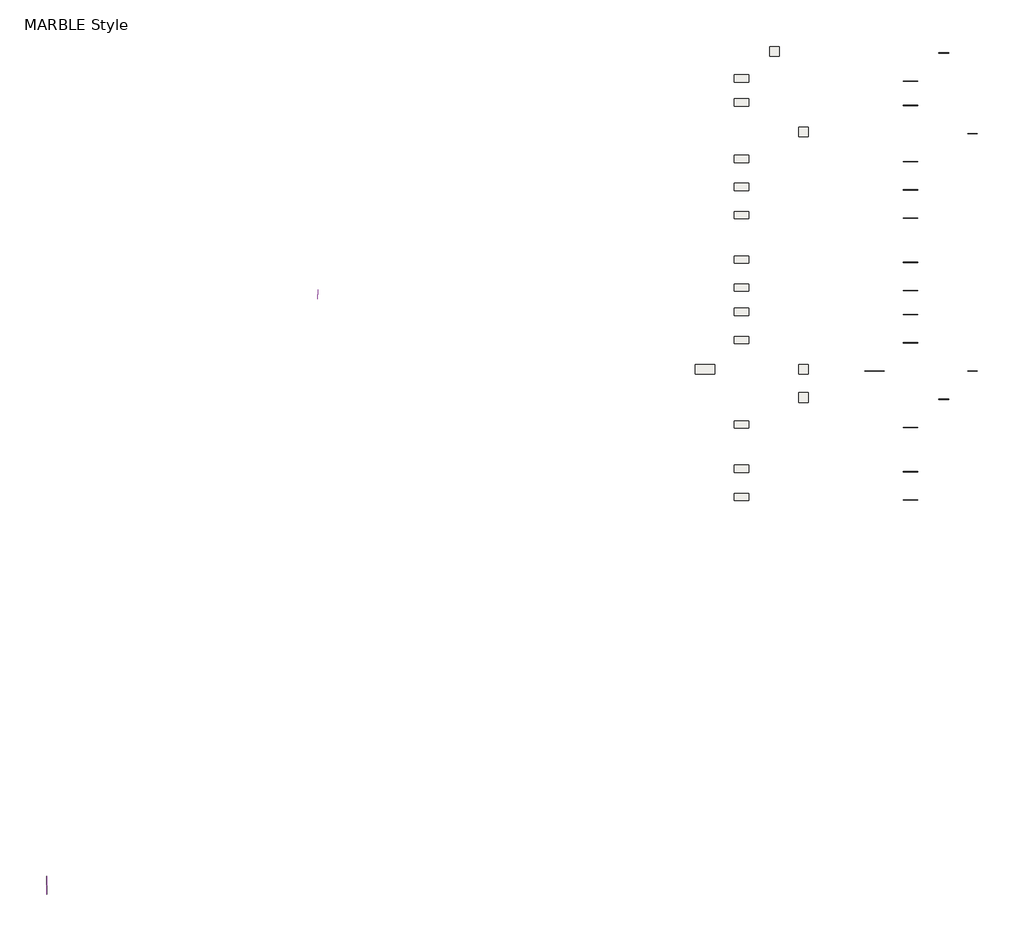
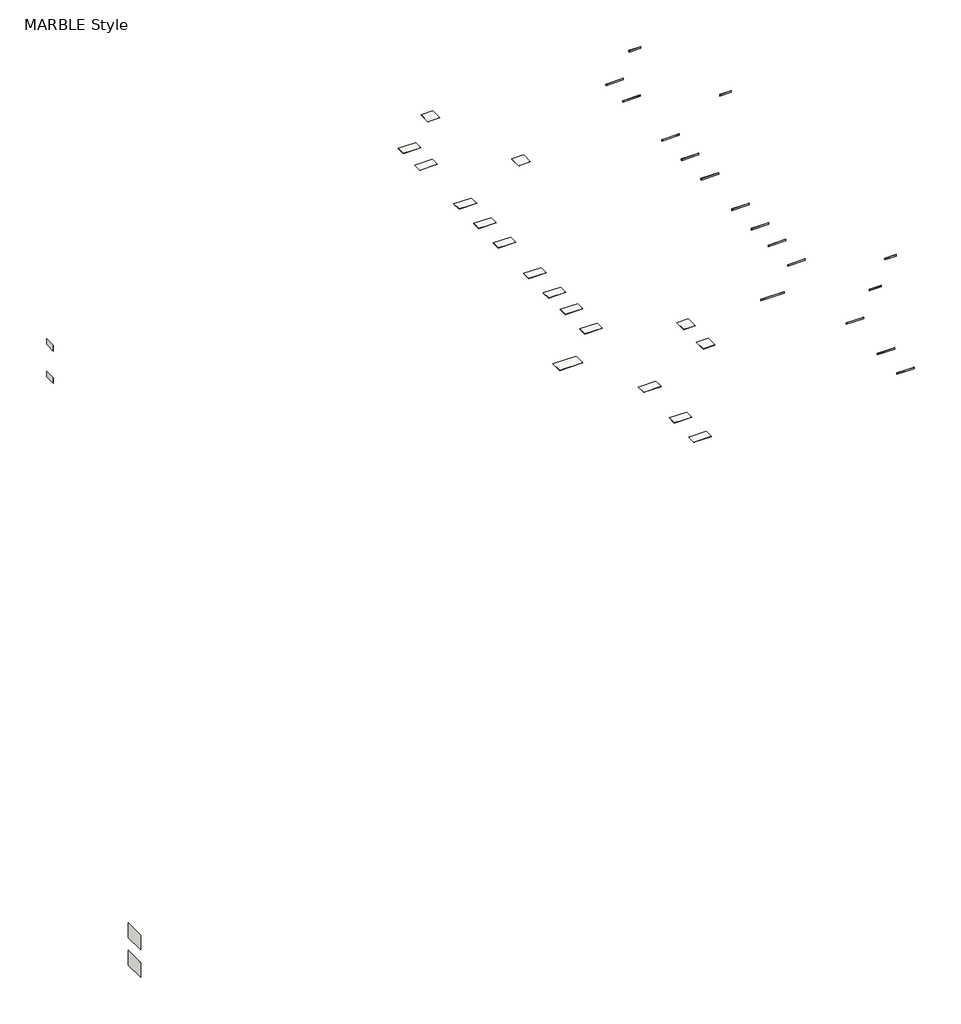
# One storey: 21 walls, 17 proxies, 17 slabs.
"""IFC4 building model written with IfcOpenShell, lengths in millimetres."""

from ifc_helpers import new_model, si_unit, frame, origin, place, context, project, spatial, polyline, outline, extrude, element, save

model = new_model("IFC4")

# Units and contexts
model_context = context("Model", 3, world=origin())
ifc_project = project(units=[si_unit("LENGTHUNIT", "METRE", prefix="MILLI")], contexts=[model_context])

# Site, building, storey
site = spatial("IfcSite", under=ifc_project)
building = spatial("IfcBuilding", under=site)
storey = spatial("IfcBuildingStorey", under=building, Name="MARBLE Style", Elevation=9000.0)

# Proxies
placement = place(None, origin())
element("IfcBuildingElementProxy", 1, Name="Cesantoni_Aranza_8x61_RO_Aranza_Brillante", ObjectType="Cesantoni_Aranza_8x61_RO_Aranza_Brillante", at=placement, inside=storey, context=model_context, shape_type="SweptSolid", body=[
    extrude(outline(polyline([(13869.8218898, 374.781227), (13869.8218898, 385.781227), (14479.8218898, 385.781227), (14479.8218898, 374.781227), (13869.8218898, 374.781227)])), frame((0.0, 0.0, 9000.0), z_axis=(0.0, 0.0, 1.0), x_axis=(1.0, 0.0, 0.0)), (0.0, 0.0, 1.0), 80.0),
])
element("IfcBuildingElementProxy", 2, Name="Cesantoni_Genova _8x90_RO_Perla_Mate", ObjectType="Cesantoni_Genova _8x90_RO_Perla_Mate", at=placement, inside=storey, context=model_context, shape_type="SweptSolid", body=[
    extrude(outline(polyline([(11669.8218898, -1375.218773), (11669.8218898, -1364.218773), (12569.8218898, -1364.218773), (12569.8218898, -1375.218773), (11669.8218898, -1375.218773)])), frame((0.0, 0.0, 9000.0), z_axis=(0.0, 0.0, 1.0), x_axis=(1.0, 0.0, 0.0)), (0.0, 0.0, 1.0), 80.0),
])
element("IfcBuildingElementProxy", 3, Name="Cesantoni_Genova _8x90_RO_Tabaco_Mate", ObjectType="Cesantoni_Genova _8x90_RO_Tabaco_Mate", at=placement, inside=storey, context=model_context, shape_type="SweptSolid", body=[
    extrude(outline(polyline([(11669.8218898, -2875.218773), (11669.8218898, -2864.218773), (12569.8218898, -2864.218773), (12569.8218898, -2875.218773), (11669.8218898, -2875.218773)])), frame((0.0, 0.0, 9000.0), z_axis=(0.0, 0.0, 1.0), x_axis=(1.0, 0.0, 0.0)), (0.0, 0.0, 1.0), 80.0),
])
element("IfcBuildingElementProxy", 4, Name="Cesantoni_Levicato_8x60_RO_Levicato_Mate", ObjectType="Cesantoni_Levicato_8x60_RO_Levicato_Mate", at=placement, inside=storey, context=model_context, shape_type="SweptSolid", body=[
    extrude(outline(polyline([(15669.8218898, -4625.218773), (15669.8218898, -4614.218773), (16269.8218898, -4614.218773), (16269.8218898, -4625.218773), (15669.8218898, -4625.218773)])), frame((0.0, 0.0, 9000.0), z_axis=(0.0, 0.0, 1.0), x_axis=(1.0, 0.0, 0.0)), (0.0, 0.0, 1.0), 80.0),
])
element("IfcBuildingElementProxy", 5, Name="Cesantoni_Milano_8x90_RO_Milano_Brillante", ObjectType="Cesantoni_Milano_8x90_RO_Milano_Brillante", at=placement, inside=storey, context=model_context, shape_type="SweptSolid", body=[
    extrude(outline(polyline([(11669.8218898, -6375.218773), (11669.8218898, -6364.218773), (12569.8218898, -6364.218773), (12569.8218898, -6375.218773), (11669.8218898, -6375.218773)])), frame((0.0, 0.0, 9000.0), z_axis=(0.0, 0.0, 1.0), x_axis=(1.0, 0.0, 0.0)), (0.0, 0.0, 1.0), 80.0),
])
element("IfcBuildingElementProxy", 6, Name="Cesantoni_Moncler_8x90_RO_Moncler_Brillante", ObjectType="Cesantoni_Moncler_8x90_RO_Moncler_Brillante", at=placement, inside=storey, context=model_context, shape_type="SweptSolid", body=[
    extrude(outline(polyline([(11669.8218898, -8125.218773), (11669.8218898, -8114.218773), (12569.8218898, -8114.218773), (12569.8218898, -8125.218773), (11669.8218898, -8125.218773)])), frame((0.0, 0.0, 9000.0), z_axis=(0.0, 0.0, 1.0), x_axis=(1.0, 0.0, 0.0)), (0.0, 0.0, 1.0), 80.0),
])
element("IfcBuildingElementProxy", 7, Name="Cesantoni_Monte_Carlo_8x90_RO_Monte_Carlo_Brillante", ObjectType="Cesantoni_Monte_Carlo_8x90_RO_Monte_Carlo_Brillante", at=placement, inside=storey, context=model_context, shape_type="SweptSolid", body=[
    extrude(outline(polyline([(11669.8218898, -9875.218773), (11669.8218898, -9864.218773), (12569.8218898, -9864.218773), (12569.8218898, -9875.218773), (11669.8218898, -9875.218773)])), frame((0.0, 0.0, 9000.0), z_axis=(0.0, 0.0, 1.0), x_axis=(1.0, 0.0, 0.0)), (0.0, 0.0, 1.0), 80.0),
])
element("IfcBuildingElementProxy", 8, Name="Cesantoni_Napa_8x90_RO_Napa_Mate", ObjectType="Cesantoni_Napa_8x90_RO_Napa_Mate", at=placement, inside=storey, context=model_context, shape_type="SweptSolid", body=[
    extrude(outline(polyline([(11669.8218898, -12625.218773), (11669.8218898, -12614.218773), (12569.8218898, -12614.218773), (12569.8218898, -12625.218773), (11669.8218898, -12625.218773)])), frame((0.0, 0.0, 9000.0), z_axis=(0.0, 0.0, 1.0), x_axis=(1.0, 0.0, 0.0)), (0.0, 0.0, 1.0), 80.0),
])
element("IfcBuildingElementProxy", 9, Name="Cesantoni_Rochelle_8x90_RO_Bruno_Brillante", ObjectType="Cesantoni_Rochelle_8x90_RO_Bruno_Brillante", at=placement, inside=storey, context=model_context, shape_type="SweptSolid", body=[
    extrude(outline(polyline([(11669.8218898, -14375.218773), (11669.8218898, -14364.218773), (12569.8218898, -14364.218773), (12569.8218898, -14375.218773), (11669.8218898, -14375.218773)])), frame((0.0, 0.0, 9000.0), z_axis=(0.0, 0.0, 1.0), x_axis=(1.0, 0.0, 0.0)), (0.0, 0.0, 1.0), 80.0),
])
element("IfcBuildingElementProxy", 10, Name="Cesantoni_Rochelle_8x90_RO_Toscano_Brillante", ObjectType="Cesantoni_Rochelle_8x90_RO_Toscano_Brillante", at=placement, inside=storey, context=model_context, shape_type="SweptSolid", body=[
    extrude(outline(polyline([(11669.8218898, -15875.218773), (11669.8218898, -15864.218773), (12569.8218898, -15864.218773), (12569.8218898, -15875.218773), (11669.8218898, -15875.218773)])), frame((0.0, 0.0, 9000.0), z_axis=(0.0, 0.0, 1.0), x_axis=(1.0, 0.0, 0.0)), (0.0, 0.0, 1.0), 80.0),
])
element("IfcBuildingElementProxy", 11, Name="Cesantoni_Santo_Tomas_8x90_RO_Santo_Tomas_Mate", ObjectType="Cesantoni_Santo_Tomas_8x90_RO_Santo_Tomas_Mate", at=placement, inside=storey, context=model_context, shape_type="SweptSolid", body=[
    extrude(outline(polyline([(11669.8218898, -17625.218773), (11669.8218898, -17614.218773), (12569.8218898, -17614.218773), (12569.8218898, -17625.218773), (11669.8218898, -17625.218773)])), frame((0.0, 0.0, 9000.0), z_axis=(0.0, 0.0, 1.0), x_axis=(1.0, 0.0, 0.0)), (0.0, 0.0, 1.0), 80.0),
])
element("IfcBuildingElementProxy", 12, Name="Cesantoni_Santorini_8x60_RO_Santorini_Mate", ObjectType="Cesantoni_Santorini_8x60_RO_Santorini_Mate", at=placement, inside=storey, context=model_context, shape_type="SweptSolid", body=[
    extrude(outline(polyline([(15669.8218898, -19375.218773), (15669.8218898, -19364.218773), (16269.8218898, -19364.218773), (16269.8218898, -19375.218773), (15669.8218898, -19375.218773)])), frame((0.0, 0.0, 9000.0), z_axis=(0.0, 0.0, 1.0), x_axis=(1.0, 0.0, 0.0)), (0.0, 0.0, 1.0), 80.0),
])
element("IfcBuildingElementProxy", 13, Name="Cesantoni_Santorini_8x120_RO_Santorini_Mate", ObjectType="Cesantoni_Santorini_8x120_RO_Santorini_Mate", at=placement, inside=storey, context=model_context, shape_type="SweptSolid", body=[
    extrude(outline(polyline([(9269.8218898, -19375.218773), (9269.8218898, -19364.218773), (10469.8218898, -19364.218773), (10469.8218898, -19375.218773), (9269.8218898, -19375.218773)])), frame((0.0, 0.0, 9000.0), z_axis=(0.0, 0.0, 1.0), x_axis=(1.0, 0.0, 0.0)), (0.0, 0.0, 1.0), 80.0),
])
element("IfcBuildingElementProxy", 14, Name="Cesantoni_Travali_8x61_RO_Travali_Brillante", ObjectType="Cesantoni_Travali_8x61_RO_Travali_Brillante", at=placement, inside=storey, context=model_context, shape_type="SweptSolid", body=[
    extrude(outline(polyline([(13869.8218898, -21125.218773), (13869.8218898, -21114.218773), (14479.8218898, -21114.218773), (14479.8218898, -21125.218773), (13869.8218898, -21125.218773)])), frame((0.0, 0.0, 9000.0), z_axis=(0.0, 0.0, 1.0), x_axis=(1.0, 0.0, 0.0)), (0.0, 0.0, 1.0), 80.0),
])
element("IfcBuildingElementProxy", 15, Name="Cesantoni_Veleta_8x90_RO_Veleta_Mate", ObjectType="Cesantoni_Veleta_8x90_RO_Veleta_Mate", at=placement, inside=storey, context=model_context, shape_type="SweptSolid", body=[
    extrude(outline(polyline([(11669.8218898, -25625.218773), (11669.8218898, -25614.218773), (12569.8218898, -25614.218773), (12569.8218898, -25625.218773), (11669.8218898, -25625.218773)])), frame((0.0, 0.0, 9000.0), z_axis=(0.0, 0.0, 1.0), x_axis=(1.0, 0.0, 0.0)), (0.0, 0.0, 1.0), 80.0),
])
element("IfcBuildingElementProxy", 16, Name="Cesantoni_Valenzi_8x90_RO_Valenzi_Mate", ObjectType="Cesantoni_Valenzi_8x90_RO_Valenzi_Mate", at=placement, inside=storey, context=model_context, shape_type="SweptSolid", body=[
    extrude(outline(polyline([(11669.8218898, -22875.218773), (11669.8218898, -22864.218773), (12569.8218898, -22864.218773), (12569.8218898, -22875.218773), (11669.8218898, -22875.218773)])), frame((0.0, 0.0, 9000.0), z_axis=(0.0, 0.0, 1.0), x_axis=(1.0, 0.0, 0.0)), (0.0, 0.0, 1.0), 80.0),
])
element("IfcBuildingElementProxy", 17, Name="Cesantoni_Zadar_8x90_RO_Zadar_Brillante", ObjectType="Cesantoni_Zadar_8x90_RO_Zadar_Brillante", at=placement, inside=storey, context=model_context, shape_type="SweptSolid", body=[
    extrude(outline(polyline([(11669.8218898, -27375.218773), (11669.8218898, -27364.218773), (12569.8218898, -27364.218773), (12569.8218898, -27375.218773), (11669.8218898, -27375.218773)])), frame((0.0, 0.0, 9000.0), z_axis=(0.0, 0.0, 1.0), x_axis=(1.0, 0.0, 0.0)), (0.0, 0.0, 1.0), 80.0),
])

# Slabs
element("IfcSlab", 18, ObjectType="Cesantoni_Aranza_61x61_RECT_Aranza_Brillante", at=placement, inside=storey, context=model_context, shape_type="SweptSolid", body=[
    extrude(outline(polyline([(3981.8218898, 784.4826442), (3981.8218898, 172.4826442), (3369.8218898, 172.4826442), (3369.8218898, 784.4826442), (3981.8218898, 784.4826442)])), frame((0.0, 0.0, 8989.0), z_axis=(0.0, 0.0, 1.0), x_axis=(1.0, 0.0, 0.0)), (0.0, 0.0, 1.0), 11.0),
])
element("IfcSlab", 19, ObjectType="Cesantoni_Genova _45x90_RECT_Perla_Mate", at=placement, inside=storey, context=model_context, shape_type="SweptSolid", body=[
    extrude(outline(polyline([(2071.8218898, -965.5173558), (2071.8218898, -1417.5173558), (1169.8218898, -1417.5173558), (1169.8218898, -965.5173558), (2071.8218898, -965.5173558)])), frame((0.0, 0.0, 8989.0), z_axis=(0.0, 0.0, 1.0), x_axis=(1.0, 0.0, 0.0)), (0.0, 0.0, 1.0), 11.0),
])
element("IfcSlab", 20, ObjectType="Cesantoni_Genova _45x90_RECT_Tabaco_Mate", at=placement, inside=storey, context=model_context, shape_type="SweptSolid", body=[
    extrude(outline(polyline([(2071.8218898, -2465.5173558), (2071.8218898, -2917.5173558), (1169.8218898, -2917.5173558), (1169.8218898, -2465.5173558), (2071.8218898, -2465.5173558)])), frame((0.0, 0.0, 8989.0), z_axis=(0.0, 0.0, 1.0), x_axis=(1.0, 0.0, 0.0)), (0.0, 0.0, 1.0), 11.0),
])
element("IfcSlab", 21, ObjectType="Cesantoni_Levicato_60x60_RECT_Levicato_Mate", at=placement, inside=storey, context=model_context, shape_type="SweptSolid", body=[
    extrude(outline(polyline([(5771.8218898, -4215.5173558), (5771.8218898, -4817.5173558), (5169.8218898, -4817.5173558), (5169.8218898, -4215.5173558), (5771.8218898, -4215.5173558)])), frame((0.0, 0.0, 8989.0), z_axis=(0.0, 0.0, 1.0), x_axis=(1.0, 0.0, 0.0)), (0.0, 0.0, 1.0), 11.0),
])
element("IfcSlab", 22, ObjectType="Cesantoni_Milano_45x90_RECT_Milano_Brillante", at=placement, inside=storey, context=model_context, shape_type="SweptSolid", body=[
    extrude(outline(polyline([(2071.8218898, -5965.5173558), (2071.8218898, -6417.5173558), (1169.8218898, -6417.5173558), (1169.8218898, -5965.5173558), (2071.8218898, -5965.5173558)])), frame((0.0, 0.0, 8989.0), z_axis=(0.0, 0.0, 1.0), x_axis=(1.0, 0.0, 0.0)), (0.0, 0.0, 1.0), 11.0),
])
element("IfcSlab", 23, ObjectType="Cesantoni_Moncler_45x90_RECT_Moncler_Brillante", at=placement, inside=storey, context=model_context, shape_type="SweptSolid", body=[
    extrude(outline(polyline([(2071.8218898, -7715.5173558), (2071.8218898, -8167.5173558), (1169.8218898, -8167.5173558), (1169.8218898, -7715.5173558), (2071.8218898, -7715.5173558)])), frame((0.0, 0.0, 8989.0), z_axis=(0.0, 0.0, 1.0), x_axis=(1.0, 0.0, 0.0)), (0.0, 0.0, 1.0), 11.0),
])
element("IfcSlab", 24, ObjectType="Cesantoni_Monte_Carlo_45x90_RECT_Monte_Carlo_Brillante", at=placement, inside=storey, context=model_context, shape_type="SweptSolid", body=[
    extrude(outline(polyline([(2071.8218898, -9465.5173558), (2071.8218898, -9917.5173558), (1169.8218898, -9917.5173558), (1169.8218898, -9465.5173558), (2071.8218898, -9465.5173558)])), frame((0.0, 0.0, 8989.0), z_axis=(0.0, 0.0, 1.0), x_axis=(1.0, 0.0, 0.0)), (0.0, 0.0, 1.0), 11.0),
])
element("IfcSlab", 25, ObjectType="Cesantoni_Napa_45x90_RECT_Napa_Mate", at=placement, inside=storey, context=model_context, shape_type="SweptSolid", body=[
    extrude(outline(polyline([(2071.8218898, -12215.5173558), (2071.8218898, -12667.5173558), (1169.8218898, -12667.5173558), (1169.8218898, -12215.5173558), (2071.8218898, -12215.5173558)])), frame((0.0, 0.0, 8989.0), z_axis=(0.0, 0.0, 1.0), x_axis=(1.0, 0.0, 0.0)), (0.0, 0.0, 1.0), 11.0),
])
element("IfcSlab", 26, ObjectType="Cesantoni_Rochelle_45x90_RECT_Bruno_Brillante", at=placement, inside=storey, context=model_context, shape_type="SweptSolid", body=[
    extrude(outline(polyline([(2071.8218898, -13965.5173558), (2071.8218898, -14417.5173558), (1169.8218898, -14417.5173558), (1169.8218898, -13965.5173558), (2071.8218898, -13965.5173558)])), frame((0.0, 0.0, 8989.0), z_axis=(0.0, 0.0, 1.0), x_axis=(1.0, 0.0, 0.0)), (0.0, 0.0, 1.0), 11.0),
])
element("IfcSlab", 27, ObjectType="Cesantoni_Rochelle_45x90_RECT_Toscano_Brillante", at=placement, inside=storey, context=model_context, shape_type="SweptSolid", body=[
    extrude(outline(polyline([(2071.8218898, -15465.5173558), (2071.8218898, -15917.5173558), (1169.8218898, -15917.5173558), (1169.8218898, -15465.5173558), (2071.8218898, -15465.5173558)])), frame((0.0, 0.0, 8989.0), z_axis=(0.0, 0.0, 1.0), x_axis=(1.0, 0.0, 0.0)), (0.0, 0.0, 1.0), 11.0),
])
element("IfcSlab", 28, ObjectType="Cesantoni_Santo_Tomas_45x90_RECT_Santo_Tomas_Mate", at=placement, inside=storey, context=model_context, shape_type="SweptSolid", body=[
    extrude(outline(polyline([(2071.8218898, -17215.5173558), (2071.8218898, -17667.5173558), (1169.8218898, -17667.5173558), (1169.8218898, -17215.5173558), (2071.8218898, -17215.5173558)])), frame((0.0, 0.0, 8989.0), z_axis=(0.0, 0.0, 1.0), x_axis=(1.0, 0.0, 0.0)), (0.0, 0.0, 1.0), 11.0),
])
element("IfcSlab", 29, ObjectType="Cesantoni_Santorini_60x60_RECT_Santorini_Mate", at=placement, inside=storey, context=model_context, shape_type="SweptSolid", body=[
    extrude(outline(polyline([(5771.8218898, -18965.5173558), (5771.8218898, -19567.5173558), (5169.8218898, -19567.5173558), (5169.8218898, -18965.5173558), (5771.8218898, -18965.5173558)])), frame((0.0, 0.0, 8989.0), z_axis=(0.0, 0.0, 1.0), x_axis=(1.0, 0.0, 0.0)), (0.0, 0.0, 1.0), 11.0),
])
element("IfcSlab", 30, ObjectType="Cesantoni_Santorini_60x120_RECT_Santorini_Mate", at=placement, inside=storey, context=model_context, shape_type="SweptSolid", body=[
    extrude(outline(polyline([(-28.1781102, -18965.5173558), (-28.1781102, -19567.5173558), (-1230.1781102, -19567.5173558), (-1230.1781102, -18965.5173558), (-28.1781102, -18965.5173558)])), frame((0.0, 0.0, 8989.0), z_axis=(0.0, 0.0, 1.0), x_axis=(1.0, 0.0, 0.0)), (0.0, 0.0, 1.0), 11.0),
])
element("IfcSlab", 31, ObjectType="Cesantoni_Travali_61x61_RECT_Travali_Brillante", at=placement, inside=storey, context=model_context, shape_type="SweptSolid", body=[
    extrude(outline(polyline([(5771.8218898, -20715.5173558), (5771.8218898, -21317.5173558), (5169.8218898, -21317.5173558), (5169.8218898, -20715.5173558), (5771.8218898, -20715.5173558)])), frame((0.0, 0.0, 8989.0), z_axis=(0.0, 0.0, 1.0), x_axis=(1.0, 0.0, 0.0)), (0.0, 0.0, 1.0), 11.0),
])
element("IfcSlab", 32, ObjectType="Cesantoni_Valenzi_45x90_RECT_Valenzi_Mate", at=placement, inside=storey, context=model_context, shape_type="SweptSolid", body=[
    extrude(outline(polyline([(2071.8218898, -22465.5173558), (2071.8218898, -22917.5173558), (1169.8218898, -22917.5173558), (1169.8218898, -22465.5173558), (2071.8218898, -22465.5173558)])), frame((0.0, 0.0, 8989.0), z_axis=(0.0, 0.0, 1.0), x_axis=(1.0, 0.0, 0.0)), (0.0, 0.0, 1.0), 11.0),
])
element("IfcSlab", 33, ObjectType="Cesantoni_Veleta_45x90_RECT_Veleta_Mate", at=placement, inside=storey, context=model_context, shape_type="SweptSolid", body=[
    extrude(outline(polyline([(2071.8218898, -25215.5173558), (2071.8218898, -25667.5173558), (1169.8218898, -25667.5173558), (1169.8218898, -25215.5173558), (2071.8218898, -25215.5173558)])), frame((0.0, 0.0, 8989.0), z_axis=(0.0, 0.0, 1.0), x_axis=(1.0, 0.0, 0.0)), (0.0, 0.0, 1.0), 11.0),
])
element("IfcSlab", 34, ObjectType="Cesantoni_Zadar_45x90_RECT_Zadar_Brillante", at=placement, inside=storey, context=model_context, shape_type="SweptSolid", body=[
    extrude(outline(polyline([(2071.8218898, -26965.5173558), (2071.8218898, -27417.5173558), (1169.8218898, -27417.5173558), (1169.8218898, -26965.5173558), (2071.8218898, -26965.5173558)])), frame((0.0, 0.0, 8989.0), z_axis=(0.0, 0.0, 1.0), x_axis=(1.0, 0.0, 0.0)), (0.0, 0.0, 1.0), 11.0),
])

# Walls
element("IfcWall", 35, ObjectType="Cesantoni_Volterra_30x60_Volterra_Mate", at=placement, inside=storey, context=model_context, shape_type="SweptSolid", body=[
    extrude(outline(polyline([(-24674.55447, -14310.0172176), (-24674.55447, -14912.0172176), (-24684.55447, -14912.0172176), (-24684.55447, -14310.0172176), (-24674.55447, -14310.0172176)])), frame((0.0, 0.0, 15448.0), z_axis=(0.0, 0.0, 1.0), x_axis=(1.0, 0.0, 0.0)), (0.0, 0.0, 1.0), 302.0),
])
element("IfcWall", 36, ObjectType="Muro básico:muro", at=placement, inside=storey, context=model_context, shape_type="SweptSolid", body=[
    extrude(outline(polyline([(14479.8218898, 385.781227), (13869.8218898, 385.781227), (13869.8218898, 386.781227), (14479.8218898, 386.781227), (14479.8218898, 385.781227)])), frame((0.0, 0.0, 9000.0), z_axis=(0.0, 0.0, 1.0), x_axis=(1.0, 0.0, 0.0)), (0.0, 0.0, 1.0), 40.0),
])
element("IfcWall", 37, ObjectType="Muro básico:muro", at=placement, inside=storey, context=model_context, shape_type="SweptSolid", body=[
    extrude(outline(polyline([(12569.8218898, -1364.218773), (11669.8218898, -1364.218773), (11669.8218898, -1363.218773), (12569.8218898, -1363.218773), (12569.8218898, -1364.218773)])), frame((0.0, 0.0, 9000.0), z_axis=(0.0, 0.0, 1.0), x_axis=(1.0, 0.0, 0.0)), (0.0, 0.0, 1.0), 40.0),
])
element("IfcWall", 38, ObjectType="Muro básico:muro", at=placement, inside=storey, context=model_context, shape_type="SweptSolid", body=[
    extrude(outline(polyline([(12569.8218898, -2864.218773), (11669.8218898, -2864.218773), (11669.8218898, -2863.218773), (12569.8218898, -2863.218773), (12569.8218898, -2864.218773)])), frame((0.0, 0.0, 9000.0), z_axis=(0.0, 0.0, 1.0), x_axis=(1.0, 0.0, 0.0)), (0.0, 0.0, 1.0), 40.0),
])
element("IfcWall", 39, ObjectType="Muro básico:muro", at=placement, inside=storey, context=model_context, shape_type="SweptSolid", body=[
    extrude(outline(polyline([(16269.8218898, -4614.218773), (15669.8218898, -4614.218773), (15669.8218898, -4613.218773), (16269.8218898, -4613.218773), (16269.8218898, -4614.218773)])), frame((0.0, 0.0, 9000.0), z_axis=(0.0, 0.0, 1.0), x_axis=(1.0, 0.0, 0.0)), (0.0, 0.0, 1.0), 40.0),
])
element("IfcWall", 40, ObjectType="Muro básico:muro", at=placement, inside=storey, context=model_context, shape_type="SweptSolid", body=[
    extrude(outline(polyline([(12569.8218898, -6364.218773), (11669.8218898, -6364.218773), (11669.8218898, -6363.218773), (12569.8218898, -6363.218773), (12569.8218898, -6364.218773)])), frame((0.0, 0.0, 9000.0), z_axis=(0.0, 0.0, 1.0), x_axis=(1.0, 0.0, 0.0)), (0.0, 0.0, 1.0), 40.0),
])
element("IfcWall", 41, ObjectType="Muro básico:muro", at=placement, inside=storey, context=model_context, shape_type="SweptSolid", body=[
    extrude(outline(polyline([(12569.8218898, -8114.218773), (11669.8218898, -8114.218773), (11669.8218898, -8113.218773), (12569.8218898, -8113.218773), (12569.8218898, -8114.218773)])), frame((0.0, 0.0, 9000.0), z_axis=(0.0, 0.0, 1.0), x_axis=(1.0, 0.0, 0.0)), (0.0, 0.0, 1.0), 40.0),
])
element("IfcWall", 42, ObjectType="Muro básico:muro", at=placement, inside=storey, context=model_context, shape_type="SweptSolid", body=[
    extrude(outline(polyline([(12569.8218898, -9864.218773), (11669.8218898, -9864.218773), (11669.8218898, -9863.218773), (12569.8218898, -9863.218773), (12569.8218898, -9864.218773)])), frame((0.0, 0.0, 9000.0), z_axis=(0.0, 0.0, 1.0), x_axis=(1.0, 0.0, 0.0)), (0.0, 0.0, 1.0), 40.0),
])
element("IfcWall", 43, ObjectType="Muro básico:muro", at=placement, inside=storey, context=model_context, shape_type="SweptSolid", body=[
    extrude(outline(polyline([(12569.8218898, -12614.218773), (11669.8218898, -12614.218773), (11669.8218898, -12613.218773), (12569.8218898, -12613.218773), (12569.8218898, -12614.218773)])), frame((0.0, 0.0, 9000.0), z_axis=(0.0, 0.0, 1.0), x_axis=(1.0, 0.0, 0.0)), (0.0, 0.0, 1.0), 40.0),
])
element("IfcWall", 44, ObjectType="Muro básico:muro", at=placement, inside=storey, context=model_context, shape_type="SweptSolid", body=[
    extrude(outline(polyline([(12569.8218898, -14364.218773), (11669.8218898, -14364.218773), (11669.8218898, -14363.218773), (12569.8218898, -14363.218773), (12569.8218898, -14364.218773)])), frame((0.0, 0.0, 9000.0), z_axis=(0.0, 0.0, 1.0), x_axis=(1.0, 0.0, 0.0)), (0.0, 0.0, 1.0), 40.0),
])
element("IfcWall", 45, ObjectType="Muro básico:muro", at=placement, inside=storey, context=model_context, shape_type="SweptSolid", body=[
    extrude(outline(polyline([(12569.8218898, -15864.218773), (11669.8218898, -15864.218773), (11669.8218898, -15863.218773), (12569.8218898, -15863.218773), (12569.8218898, -15864.218773)])), frame((0.0, 0.0, 9000.0), z_axis=(0.0, 0.0, 1.0), x_axis=(1.0, 0.0, 0.0)), (0.0, 0.0, 1.0), 40.0),
])
element("IfcWall", 46, ObjectType="Muro básico:muro", at=placement, inside=storey, context=model_context, shape_type="SweptSolid", body=[
    extrude(outline(polyline([(12569.8218898, -17614.218773), (11669.8218898, -17614.218773), (11669.8218898, -17613.218773), (12569.8218898, -17613.218773), (12569.8218898, -17614.218773)])), frame((0.0, 0.0, 9000.0), z_axis=(0.0, 0.0, 1.0), x_axis=(1.0, 0.0, 0.0)), (0.0, 0.0, 1.0), 40.0),
])
element("IfcWall", 47, ObjectType="Muro básico:muro", at=placement, inside=storey, context=model_context, shape_type="SweptSolid", body=[
    extrude(outline(polyline([(16269.8218898, -19364.218773), (15669.8218898, -19364.218773), (15669.8218898, -19363.218773), (16269.8218898, -19363.218773), (16269.8218898, -19364.218773)])), frame((0.0, 0.0, 9000.0), z_axis=(0.0, 0.0, 1.0), x_axis=(1.0, 0.0, 0.0)), (0.0, 0.0, 1.0), 40.0),
])
element("IfcWall", 48, ObjectType="Muro básico:muro", at=placement, inside=storey, context=model_context, shape_type="SweptSolid", body=[
    extrude(outline(polyline([(10469.8218898, -19364.218773), (9269.8218898, -19364.218773), (9269.8218898, -19363.218773), (10469.8218898, -19363.218773), (10469.8218898, -19364.218773)])), frame((0.0, 0.0, 9000.0), z_axis=(0.0, 0.0, 1.0), x_axis=(1.0, 0.0, 0.0)), (0.0, 0.0, 1.0), 40.0),
])
element("IfcWall", 49, ObjectType="Muro básico:muro", at=placement, inside=storey, context=model_context, shape_type="SweptSolid", body=[
    extrude(outline(polyline([(14479.8218898, -21114.218773), (13869.8218898, -21114.218773), (13869.8218898, -21113.218773), (14479.8218898, -21113.218773), (14479.8218898, -21114.218773)])), frame((0.0, 0.0, 9000.0), z_axis=(0.0, 0.0, 1.0), x_axis=(1.0, 0.0, 0.0)), (0.0, 0.0, 1.0), 40.0),
])
element("IfcWall", 50, ObjectType="Muro básico:muro", at=placement, inside=storey, context=model_context, shape_type="SweptSolid", body=[
    extrude(outline(polyline([(12569.8218898, -25614.218773), (11669.8218898, -25614.218773), (11669.8218898, -25613.218773), (12569.8218898, -25613.218773), (12569.8218898, -25614.218773)])), frame((0.0, 0.0, 9000.0), z_axis=(0.0, 0.0, 1.0), x_axis=(1.0, 0.0, 0.0)), (0.0, 0.0, 1.0), 40.0),
])
element("IfcWall", 51, ObjectType="Muro básico:muro", at=placement, inside=storey, context=model_context, shape_type="SweptSolid", body=[
    extrude(outline(polyline([(12569.8218898, -22864.218773), (11669.8218898, -22864.218773), (11669.8218898, -22863.218773), (12569.8218898, -22863.218773), (12569.8218898, -22864.218773)])), frame((0.0, 0.0, 9000.0), z_axis=(0.0, 0.0, 1.0), x_axis=(1.0, 0.0, 0.0)), (0.0, 0.0, 1.0), 40.0),
])
element("IfcWall", 52, ObjectType="Muro básico:muro", at=placement, inside=storey, context=model_context, shape_type="SweptSolid", body=[
    extrude(outline(polyline([(12569.8218898, -27364.218773), (11669.8218898, -27364.218773), (11669.8218898, -27363.218773), (12569.8218898, -27363.218773), (12569.8218898, -27364.218773)])), frame((0.0, 0.0, 9000.0), z_axis=(0.0, 0.0, 1.0), x_axis=(1.0, 0.0, 0.0)), (0.0, 0.0, 1.0), 40.0),
])
element("IfcWall", 53, ObjectType="Cesantoni_Mylo_30x60_RECT_Mylo_Mate", at=placement, inside=storey, context=model_context, shape_type="SweptSolid", body=[
    extrude(outline(polyline([(-24674.55447, -14309.3531771), (-24674.55447, -14911.3531771), (-24684.55447, -14911.3531771), (-24684.55447, -14309.3531771), (-24674.55447, -14309.3531771)])), frame((0.0, 0.0, 13678.1768034), z_axis=(0.0, 0.0, 1.0), x_axis=(1.0, 0.0, 0.0)), (0.0, 0.0, 1.0), 302.0),
])
element("IfcWall", 54, ObjectType="Cesantoni_Charlot_28.3x7.2_Rose Mate_Mate", at=placement, inside=storey, context=model_context, shape_type="SweptSolid", body=[
    extrude(outline(polyline([(-41497.3407204, -50736.7282789), (-41497.3407204, -51856.7282789), (-41507.3407204, -51856.7282789), (-41507.3407204, -50736.7282789), (-41497.3407204, -50736.7282789)])), frame((0.0, 0.0, 11046.7872069), z_axis=(0.0, 0.0, 1.0), x_axis=(1.0, 0.0, 0.0)), (0.0, 0.0, 1.0), 812.6),
])
element("IfcWall", 55, ObjectType="Cesantoni_Charlot_28.3x7.2_Honey_Mate", at=placement, inside=storey, context=model_context, shape_type="SweptSolid", body=[
    extrude(outline(polyline([(-41497.3407204, -50736.7282789), (-41497.3407204, -51856.7282789), (-41507.3407204, -51856.7282789), (-41507.3407204, -50736.7282789), (-41497.3407204, -50736.7282789)])), frame((0.0, 0.0, 9546.5829342), z_axis=(0.0, 0.0, 1.0), x_axis=(1.0, 0.0, 0.0)), (0.0, 0.0, 1.0), 812.8042727),
])

save(model, "model.ifc")
